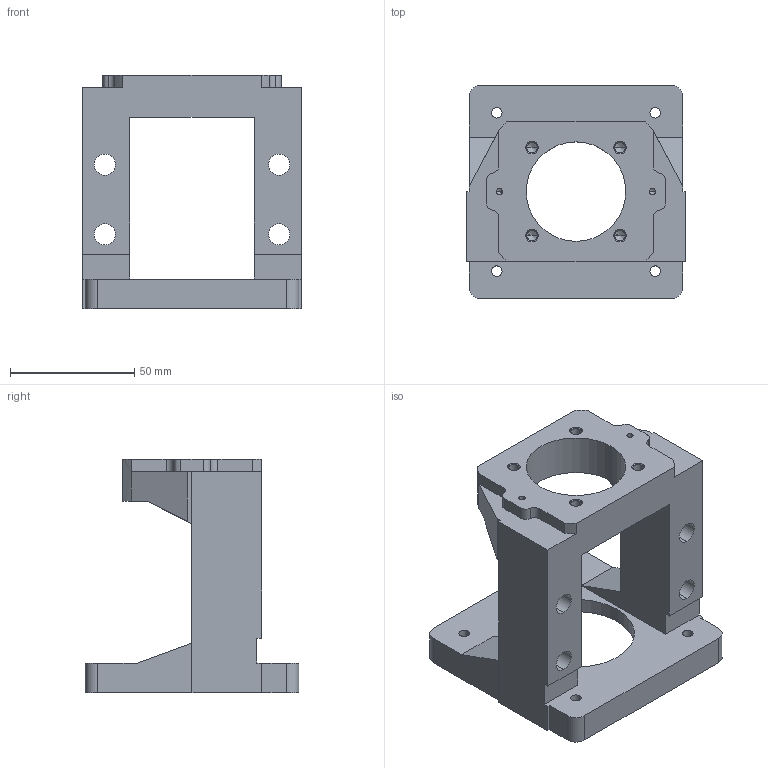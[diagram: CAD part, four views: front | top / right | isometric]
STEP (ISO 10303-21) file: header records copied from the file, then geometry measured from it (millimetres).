
FILE_DESCRIPTION (( 'STEP AP203' ), '1' );
FILE_NAME ('傳動座MBA15-EP.STEP', '2020-07-01T03:45:32', ( '' ), ( '' ), 'SwSTEP 2.0', 'SolidWorks 2018', '' );
FILE_SCHEMA (( 'CONFIG_CONTROL_DESIGN' ));
Length unit declared in the file: millimetre
Products named in the file (1): 傳動座MBA15-EP
Bounding box: 88 x 86 x 94 mm (x, y, z)
Volume: 172121.2 mm3; surface area: 45068.1 mm2
Topology: 1 solids, 1 shells, 133 faces, 354 edges, 220 vertices
Faces by surface type: cylinder 58, plane 47, cone 28
Entity records: 4177 total; most frequent: DIRECTION 742, CARTESIAN_POINT 696, ORIENTED_EDGE 684, EDGE_CURVE 342, AXIS2_PLACEMENT_3D 266, VERTEX_POINT 220, LINE 210, VECTOR 210
